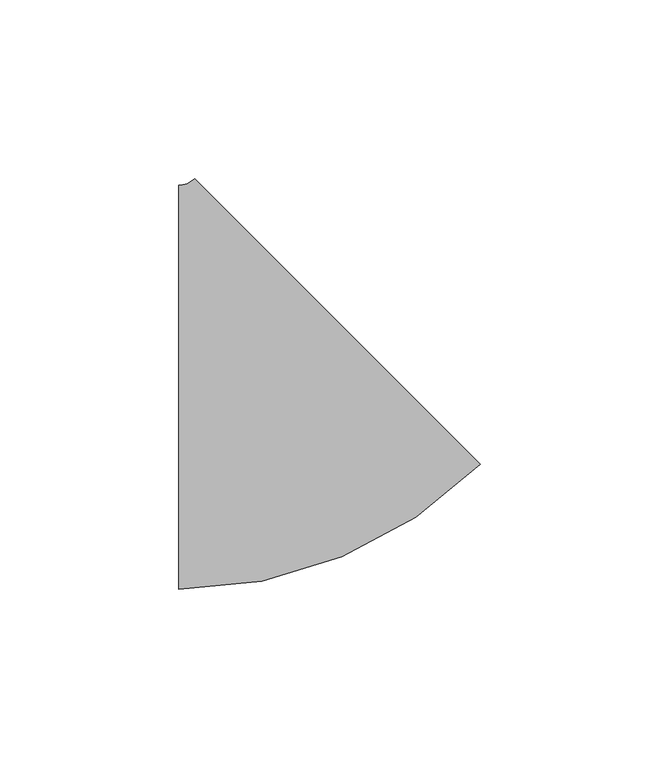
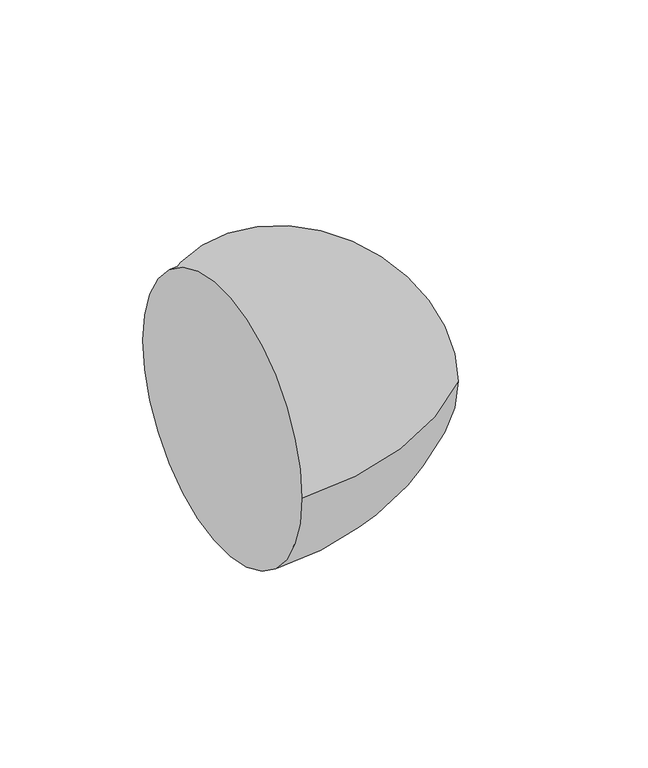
"""IFC4 building model written with IfcOpenShell, lengths in millimetres: pipe fitting geometry, M_Codo - Genérico : Estándar."""

from ifc_helpers import new_model, si_unit, point, frame, origin, place, context, project, spatial, circle_curve, ellipse_curve, trimmed, source, transform, mapped, element, save
from ifc_brep_helpers import plane_surface, revolved_surface, advanced_brep


def pipe_fitting_0b7fd5a4(model_context):
    return source(origin(), model_context, "Body", "AdvancedBrep", [
        advanced_brep(
        [(-26.0680391, -56.5875, 0.0), (-26.0680391, 56.5875, 0.0), (58.4453983, -21.5829385, 0.0), (-21.578097, 58.447186, 0.0)],
        [
            (0, 1, circle_curve(frame((-26.0680391, 0.0, 0.0), z_axis=(-1.0, 0.0, 0.0), x_axis=(0.0, 1.0, 0.0)), 56.5875)),
            (1, 0, circle_curve(frame((-26.0680391, 0.0, 0.0), z_axis=(-1.0, 0.0, 0.0), x_axis=(0.0, 1.0, 0.0)), 56.5875)),
            (2, 3, circle_curve(frame((18.4336507, 18.4321237, 0.0), z_axis=(0.7071360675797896, 0.7070774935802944, 0.0), x_axis=(-0.7070774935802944, 0.7071360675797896, 0.0)), 56.5875)),
            (3, 2, circle_curve(frame((18.4336507, 18.4321237, 0.0), z_axis=(0.7071360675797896, 0.7070774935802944, 0.0), x_axis=(-0.7070774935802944, 0.7071360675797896, 0.0)), 56.5875)),
            (3, 1, circle_curve(frame((-26.0680391, 62.9375, 0.0), z_axis=(0.0, 0.0, -1.0), x_axis=(0.0, -1.0, 0.0)), 6.35)),
            (0, 2, circle_curve(frame((-26.0680391, 62.9375, 0.0), z_axis=(0.0, 0.0, 1.0), x_axis=(0.0, -1.0, 0.0)), 119.525)),
        ],
        [
            plane_surface(frame((-26.0680391, 0.0, 0.0), z_axis=(-1.0, 0.0, 0.0), x_axis=(0.0, 0.0, 1.0))),
            plane_surface(frame((18.4336507, 18.4321237, 0.0), z_axis=(0.7071360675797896, 0.7070774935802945, 0.0), x_axis=(0.0, 0.0, 1.0))),
            revolved_surface(trimmed(ellipse_curve(frame((-26.0680391, 0.0, 0.0), z_axis=(-1.0, 0.0, 0.0), x_axis=(0.0, 1.0, 0.0)), 56.5875, 56.5875), [point((-26.0680391, -56.5875, 0.0))], [point((-26.0680391, 56.5875, 0.0))], True, "CARTESIAN"), (-26.0680391, 62.9375, 0.0), (0.0, 0.0, 1.0)),
            revolved_surface(trimmed(ellipse_curve(frame((-26.0680391, 0.0, 0.0), z_axis=(-1.0, 0.0, 0.0), x_axis=(0.0, 1.0, 0.0)), 56.5875, 56.5875), [point((-26.0680391, 56.5875, 0.0))], [point((-26.0680391, -56.5875, 0.0))], True, "CARTESIAN"), (-26.0680391, 62.9375, 0.0), (0.0, 0.0, 1.0)),
        ],
        [
            (0, [[1, 2]]),
            (1, [[3, 4]]),
            (2, [[5, -1, 6, -4]]),
            (3, [[-6, -2, -5, -3]]),
        ],
    ),
    ])


if __name__ == "__main__":
    model = new_model("IFC4")
    model_context = context("Model", 3, world=origin())
    ifc_project = project(units=[si_unit("LENGTHUNIT", "METRE", prefix="MILLI")], contexts=[model_context])
    site = spatial("IfcSite", under=ifc_project)
    building = spatial("IfcBuilding", under=site)
    placement = place(None, origin())
    pipe_fitting_shape = pipe_fitting_0b7fd5a4(model_context)
    element("IfcPipeFitting", 1, ObjectType="M_Codo - Genérico : Estándar", at=placement, inside=building, context=model_context, shape_type="MappedRepresentation", body=[
        mapped(pipe_fitting_shape, transform((0.0, 0.0, 0.0), x_axis=(1.0, 0.0, 0.0), y_axis=(0.0, 1.0, 0.0), z_axis=(0.0, 0.0, 1.0))),
    ])
    save(model, "model.ifc")
